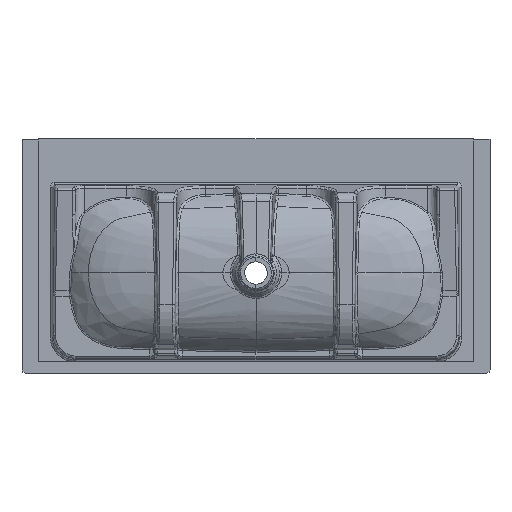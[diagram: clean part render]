
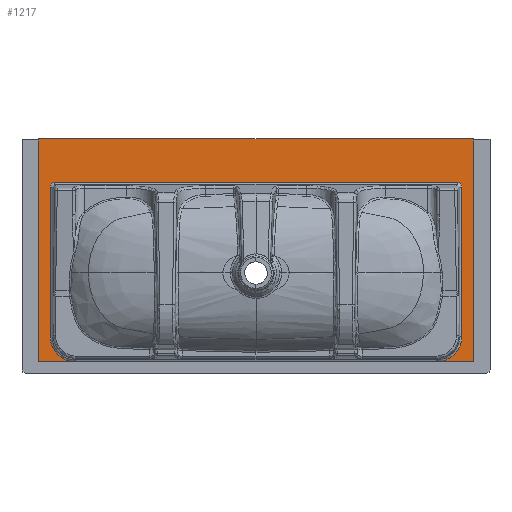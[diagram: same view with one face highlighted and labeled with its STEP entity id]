
A CAD part, front view. The second image highlights one B-rep face of the part: STEP entity #1217.
In plain terms, the highlighted planar face has unit normal (0, -1, 0).
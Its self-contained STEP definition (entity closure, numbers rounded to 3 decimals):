
#63=ELLIPSE('',#5250,56.381,55.);
#64=ELLIPSE('',#5255,10.251,10.);
#65=ELLIPSE('',#5259,10.251,10.);
#66=ELLIPSE('',#5262,56.381,55.);
#194=PLANE('',#5274);
#304=LINE('',#32349,#451);
#305=LINE('',#32374,#452);
#306=LINE('',#32399,#453);
#307=LINE('',#32437,#454);
#311=LINE('',#32445,#458);
#313=LINE('',#32450,#460);
#314=LINE('',#32452,#461);
#331=LINE('',#32503,#478);
#332=LINE('',#32505,#479);
#334=LINE('',#35766,#481);
#335=LINE('',#35768,#482);
#451=VECTOR('',#5961,1.);
#452=VECTOR('',#5970,1.);
#453=VECTOR('',#5979,1.);
#454=VECTOR('',#5984,1.);
#458=VECTOR('',#5988,1.);
#460=VECTOR('',#5992,1.);
#461=VECTOR('',#5993,1.);
#478=VECTOR('',#6028,1.);
#479=VECTOR('',#6029,1.);
#481=VECTOR('',#6033,1.);
#482=VECTOR('',#6034,1.);
#1217=ADVANCED_FACE('',(#1603),#194,.F.);
#1603=FACE_OUTER_BOUND('',#1933,.T.);
#1933=EDGE_LOOP('',(#3366,#3367,#3368,#3369,#3370,#3371,#3372,#3373,#3374,
#3375,#3376,#3377,#3378,#3379,#3380));
#3366=ORIENTED_EDGE('',*,*,#4611,.F.);
#3367=ORIENTED_EDGE('',*,*,#4598,.T.);
#3368=ORIENTED_EDGE('',*,*,#4597,.T.);
#3369=ORIENTED_EDGE('',*,*,#4569,.T.);
#3370=ORIENTED_EDGE('',*,*,#4554,.T.);
#3371=ORIENTED_EDGE('',*,*,#4558,.T.);
#3372=ORIENTED_EDGE('',*,*,#4560,.T.);
#3373=ORIENTED_EDGE('',*,*,#4562,.T.);
#3374=ORIENTED_EDGE('',*,*,#4564,.T.);
#3375=ORIENTED_EDGE('',*,*,#4566,.T.);
#3376=ORIENTED_EDGE('',*,*,#4568,.T.);
#3377=ORIENTED_EDGE('',*,*,#4573,.T.);
#3378=ORIENTED_EDGE('',*,*,#4576,.T.);
#3379=ORIENTED_EDGE('',*,*,#4575,.T.);
#3380=ORIENTED_EDGE('',*,*,#4612,.F.);
#3836=VERTEX_POINT('',#32310);
#3837=VERTEX_POINT('',#32311);
#3838=VERTEX_POINT('',#32348);
#3839=VERTEX_POINT('',#32352);
#3840=VERTEX_POINT('',#32373);
#3841=VERTEX_POINT('',#32377);
#3842=VERTEX_POINT('',#32398);
#3843=VERTEX_POINT('',#32405);
#3844=VERTEX_POINT('',#32438);
#3847=VERTEX_POINT('',#32444);
#3848=VERTEX_POINT('',#32448);
#3850=VERTEX_POINT('',#32451);
#3864=VERTEX_POINT('',#32504);
#3865=VERTEX_POINT('',#32506);
#3872=VERTEX_POINT('',#35767);
#4554=EDGE_CURVE('',#3836,#3837,#63,.T.);
#4558=EDGE_CURVE('',#3837,#3838,#304,.T.);
#4560=EDGE_CURVE('',#3838,#3839,#64,.T.);
#4562=EDGE_CURVE('',#3839,#3840,#305,.T.);
#4564=EDGE_CURVE('',#3840,#3841,#65,.T.);
#4566=EDGE_CURVE('',#3841,#3842,#306,.T.);
#4568=EDGE_CURVE('',#3842,#3843,#66,.T.);
#4569=EDGE_CURVE('',#3844,#3836,#307,.T.);
#4573=EDGE_CURVE('',#3843,#3847,#311,.T.);
#4575=EDGE_CURVE('',#3850,#3848,#313,.T.);
#4576=EDGE_CURVE('',#3847,#3850,#314,.T.);
#4597=EDGE_CURVE('',#3864,#3844,#331,.T.);
#4598=EDGE_CURVE('',#3865,#3864,#332,.T.);
#4611=EDGE_CURVE('',#3865,#3872,#334,.T.);
#4612=EDGE_CURVE('',#3872,#3848,#335,.T.);
#5250=AXIS2_PLACEMENT_3D('',#32309,#5955,#5956);
#5255=AXIS2_PLACEMENT_3D('',#32353,#5966,#5967);
#5259=AXIS2_PLACEMENT_3D('',#32378,#5975,#5976);
#5262=AXIS2_PLACEMENT_3D('',#32406,#5982,#5983);
#5274=AXIS2_PLACEMENT_3D('',#35769,#6035,#6036);
#5955=DIRECTION('',(0.,1.,0.));
#5956=DIRECTION('',(-0.623,0.,-0.782));
#5961=DIRECTION('',(0.,0.,1.));
#5966=DIRECTION('',(0.,1.,0.));
#5967=DIRECTION('',(-0.623,0.,0.782));
#5970=DIRECTION('',(1.,0.,0.));
#5975=DIRECTION('',(0.,1.,0.));
#5976=DIRECTION('',(-0.623,0.,-0.782));
#5979=DIRECTION('',(0.,0.,-1.));
#5982=DIRECTION('',(0.,1.,0.));
#5983=DIRECTION('',(0.623,0.,-0.782));
#5984=DIRECTION('',(1.,0.,0.));
#5988=DIRECTION('',(1.,0.,0.));
#5992=DIRECTION('',(0.,0.,1.));
#5993=DIRECTION('',(0.,0.,1.));
#6028=DIRECTION('',(0.,0.,-1.));
#6029=DIRECTION('',(0.,0.,-1.));
#6033=DIRECTION('',(1.,0.,0.));
#6034=DIRECTION('',(1.,0.,0.));
#6035=DIRECTION('',(0.,1.,0.));
#6036=DIRECTION('',(1.,0.,0.));
#32309=CARTESIAN_POINT('',(-384.318,-14.54,-420.036));
#32310=CARTESIAN_POINT('',(-396.041,-14.54,-474.895));
#32311=CARTESIAN_POINT('',(-439.859,-14.54,-421.386));
#32348=CARTESIAN_POINT('',(-439.859,-14.54,-102.804));
#32349=CARTESIAN_POINT('',(-439.859,-14.54,-501.));
#32352=CARTESIAN_POINT('',(-430.005,-14.54,-92.895));
#32353=CARTESIAN_POINT('',(-429.761,-14.54,-103.05));
#32373=CARTESIAN_POINT('',(430.005,-14.54,-92.895));
#32374=CARTESIAN_POINT('',(-501.4,-14.54,-92.895));
#32377=CARTESIAN_POINT('',(439.859,-14.54,-102.804));
#32378=CARTESIAN_POINT('',(429.761,-14.54,-103.05));
#32398=CARTESIAN_POINT('',(439.859,-14.54,-421.386));
#32399=CARTESIAN_POINT('',(439.859,-14.54,-501.));
#32405=CARTESIAN_POINT('',(396.041,-14.54,-474.895));
#32406=CARTESIAN_POINT('',(384.318,-14.54,-420.036));
#32437=CARTESIAN_POINT('',(-501.4,-14.54,-474.895));
#32438=CARTESIAN_POINT('',(-464.895,-14.54,-474.895));
#32444=CARTESIAN_POINT('',(464.895,-14.54,-474.895));
#32445=CARTESIAN_POINT('',(-501.4,-14.54,-474.895));
#32448=CARTESIAN_POINT('',(464.895,-14.54,0.238));
#32450=CARTESIAN_POINT('',(464.895,-14.54,-501.));
#32451=CARTESIAN_POINT('',(464.895,-14.54,-13.204));
#32452=CARTESIAN_POINT('',(464.895,-14.54,-501.));
#32503=CARTESIAN_POINT('',(-464.895,-14.54,-501.));
#32504=CARTESIAN_POINT('',(-464.895,-14.54,-13.204));
#32505=CARTESIAN_POINT('',(-464.895,-14.54,-501.));
#32506=CARTESIAN_POINT('',(-464.895,-14.54,0.238));
#35766=CARTESIAN_POINT('',(-501.4,-14.54,0.238));
#35767=CARTESIAN_POINT('',(0.,-14.54,0.238));
#35768=CARTESIAN_POINT('',(-501.4,-14.54,0.238));
#35769=CARTESIAN_POINT('',(-501.4,-14.54,-501.));
